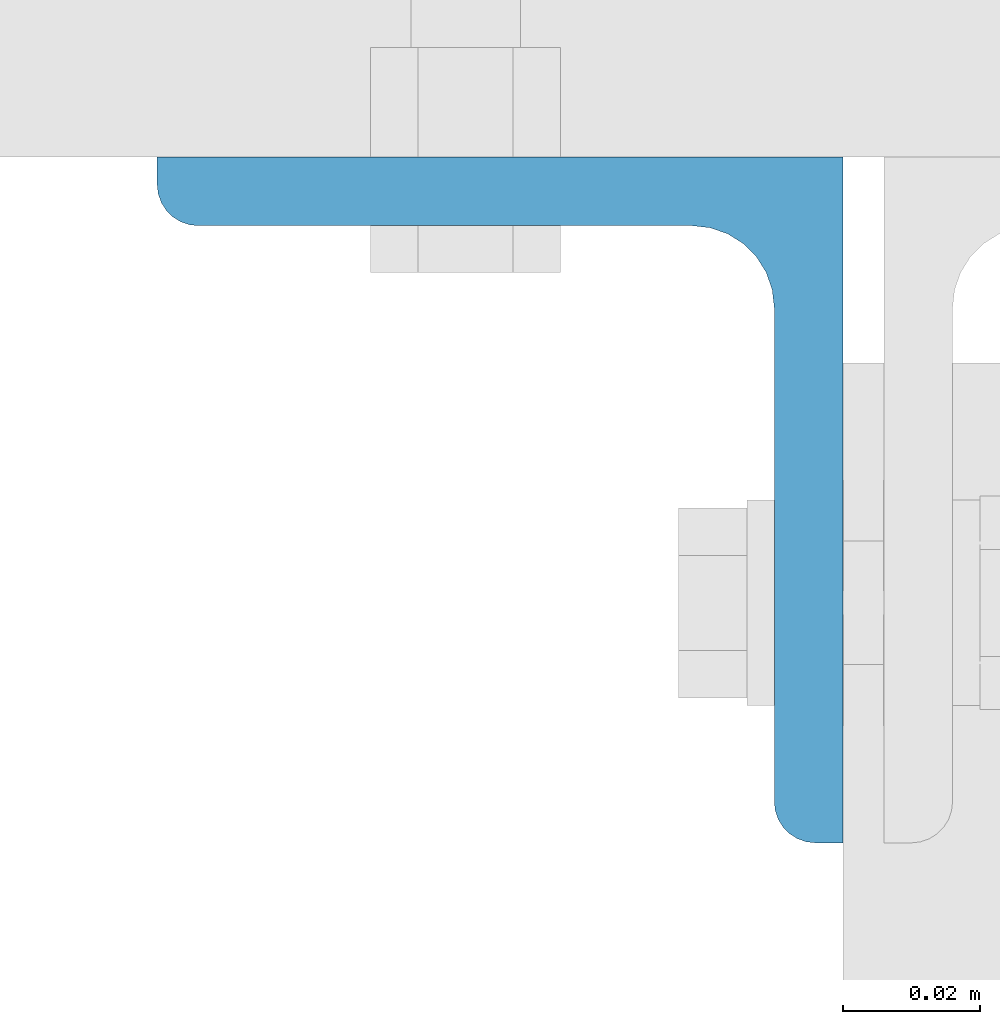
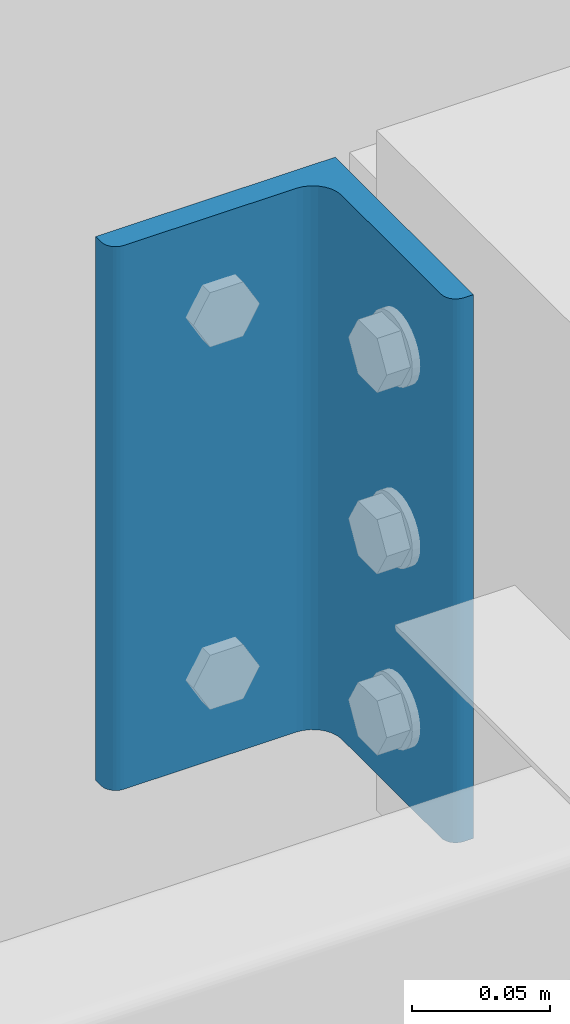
# One storey, part 19 of 123: 1 column, 1 element without a shape of its own.
"""IFC2X3 building model written with IfcOpenShell, lengths in millimetres."""

from ifc_helpers import new_model, si_unit, frame, origin_with_axes, origin_2d_with_axis, place, context, subcontext, project, spatial, l_section, extrude, material, type_object, element, aggregate, save


model = new_model("IFC2X3")

# Units and contexts
model_context = context("Model", 3, precision=1e-05, world=origin_with_axes())
body_context = subcontext(model_context, "Body", "Model", "MODEL_VIEW")
ifc_project = project(units=[si_unit("LENGTHUNIT", "METRE", prefix="MILLI"), si_unit("AREAUNIT", "SQUARE_METRE"), si_unit("VOLUMEUNIT", "CUBIC_METRE"), si_unit("MASSUNIT", "GRAM", prefix="KILO"), si_unit("TIMEUNIT", "SECOND"), si_unit("PLANEANGLEUNIT", "RADIAN"), si_unit("SOLIDANGLEUNIT", "STERADIAN"), si_unit("THERMODYNAMICTEMPERATUREUNIT", "DEGREE_CELSIUS"), si_unit("LUMINOUSINTENSITYUNIT", "LUMEN")], contexts=[model_context])

# Site, building, storey
site_placement = place(None, origin_with_axes())
site = spatial("IfcSite", under=ifc_project, at=site_placement, Name="Undefined", CompositionType="ELEMENT")
building_placement = place(site_placement, origin_with_axes())
building = spatial("IfcBuilding", under=site, at=building_placement, Name="Undefined", CompositionType="ELEMENT")
storey_placement = place(building_placement, origin_with_axes())
storey = spatial("IfcBuildingStorey", under=building, at=storey_placement, Name="Undefined", CompositionType="ELEMENT", Elevation=0.0)

# Assembly, column
assembly_placement = place(storey_placement, origin_with_axes())
assembly = element("IfcElementAssembly", 1, at=assembly_placement, inside=storey, Name="Steel Assembly", AssemblyPlace="NOTDEFINED", PredefinedType="RIGID_FRAME")
ifc_material = material(Name="STEEL/S235-E24")
column_type = type_object("IfcColumnType", Name="L100*10", PredefinedType="NOTDEFINED")
column_placement = place(assembly_placement, frame((13896.4998855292, 15339.9999998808, 7970.00437164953), z_axis=(0.0, 0.0, 1.0), x_axis=(-1.0, 0.0, 0.0)))
column = element("IfcColumn", 2, at=column_placement, type_object=column_type, material=ifc_material, Name="ATTACHE", ObjectType="L100*10", context=body_context, shape_type="SweptSolid", body=[
    extrude(l_section(Depth=100.0, Width=100.0, Thickness=10.0, FilletRadius=12.0, EdgeRadius=6.0, at=origin_2d_with_axis()), frame((0.0, 0.0, 239.999999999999), z_axis=(0.0, 0.0, -1.0), x_axis=(0.0, 1.0, 0.0)), (0.0, 0.0, 1.0), 240.0),
])
aggregate(assembly, [column])

save(model, "model.ifc")
